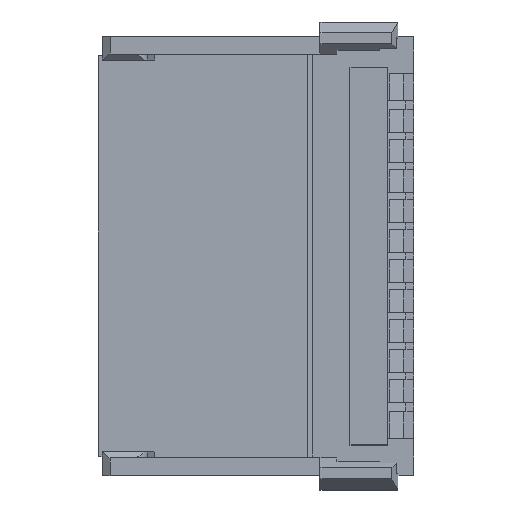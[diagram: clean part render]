
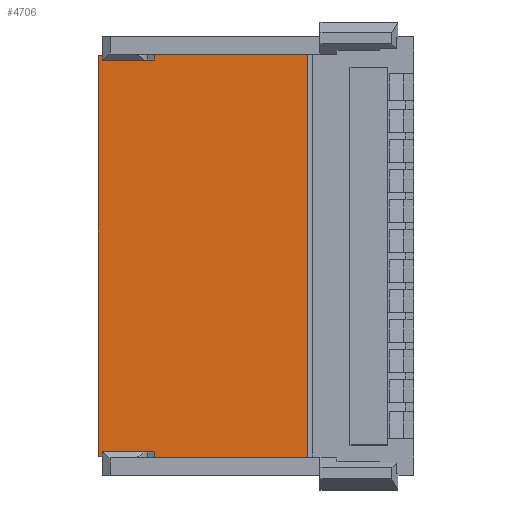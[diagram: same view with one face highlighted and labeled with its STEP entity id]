
A CAD part, top view. The second image highlights one B-rep face of the part: STEP entity #4706.
In plain terms, the highlighted planar face has unit normal (0, 0, 1).
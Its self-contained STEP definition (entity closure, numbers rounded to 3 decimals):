
#4641=AXIS2_PLACEMENT_3D('Plane Axis2P3D',#4638,#4639,#4640) ;
#185=CARTESIAN_POINT('Vertex',(0.2,-10.025,0.)) ;
#188=CARTESIAN_POINT('Line Origine',(0.1,-10.025,0.)) ;
#192=CARTESIAN_POINT('Vertex',(0.,-10.025,0.)) ;
#903=CARTESIAN_POINT('Vertex',(10.5,-10.1,0.)) ;
#906=CARTESIAN_POINT('Line Origine',(6.663,-10.1,0.)) ;
#910=CARTESIAN_POINT('Vertex',(2.826,-10.1,0.)) ;
#935=CARTESIAN_POINT('Line Origine',(2.826,-9.95,0.)) ;
#939=CARTESIAN_POINT('Vertex',(2.826,-9.8,0.)) ;
#973=CARTESIAN_POINT('Line Origine',(2.163,-9.8,0.)) ;
#977=CARTESIAN_POINT('Vertex',(1.5,-9.8,0.)) ;
#1029=CARTESIAN_POINT('Line Origine',(0.85,-9.8,0.)) ;
#1033=CARTESIAN_POINT('Vertex',(0.2,-9.8,0.)) ;
#1081=CARTESIAN_POINT('Line Origine',(0.2,-9.913,0.)) ;
#4543=CARTESIAN_POINT('Line Origine',(10.5,-5.05,0.)) ;
#4547=CARTESIAN_POINT('Vertex',(10.5,10.1,0.)) ;
#4638=CARTESIAN_POINT('Axis2P3D Location',(10.75,-10.025,0.)) ;
#4643=CARTESIAN_POINT('Line Origine',(0.,0.,0.)) ;
#4647=CARTESIAN_POINT('Vertex',(0.,10.025,0.)) ;
#4650=CARTESIAN_POINT('Line Origine',(6.663,10.1,0.)) ;
#4654=CARTESIAN_POINT('Vertex',(2.826,10.1,0.)) ;
#4657=CARTESIAN_POINT('Line Origine',(2.826,9.95,0.)) ;
#4661=CARTESIAN_POINT('Vertex',(2.826,9.8,0.)) ;
#4664=CARTESIAN_POINT('Line Origine',(2.163,9.8,0.)) ;
#4668=CARTESIAN_POINT('Vertex',(1.5,9.8,0.)) ;
#4671=CARTESIAN_POINT('Line Origine',(0.85,9.8,0.)) ;
#4675=CARTESIAN_POINT('Vertex',(0.2,9.8,0.)) ;
#4678=CARTESIAN_POINT('Line Origine',(0.2,9.913,0.)) ;
#4682=CARTESIAN_POINT('Vertex',(0.2,10.025,0.)) ;
#4685=CARTESIAN_POINT('Line Origine',(0.1,10.025,0.)) ;
#189=DIRECTION('Vector Direction',(-1.,0.,0.)) ;
#907=DIRECTION('Vector Direction',(1.,0.,0.)) ;
#936=DIRECTION('Vector Direction',(0.,1.,0.)) ;
#974=DIRECTION('Vector Direction',(-1.,0.,0.)) ;
#1030=DIRECTION('Vector Direction',(1.,0.,0.)) ;
#1082=DIRECTION('Vector Direction',(0.,-1.,0.)) ;
#4544=DIRECTION('Vector Direction',(0.,1.,0.)) ;
#4639=DIRECTION('Axis2P3D Direction',(0.,0.,1.)) ;
#4640=DIRECTION('Axis2P3D XDirection',(-1.,0.,0.)) ;
#4644=DIRECTION('Vector Direction',(0.,-1.,0.)) ;
#4651=DIRECTION('Vector Direction',(1.,0.,0.)) ;
#4658=DIRECTION('Vector Direction',(0.,1.,0.)) ;
#4665=DIRECTION('Vector Direction',(-1.,0.,0.)) ;
#4672=DIRECTION('Vector Direction',(1.,0.,0.)) ;
#4679=DIRECTION('Vector Direction',(0.,-1.,0.)) ;
#4686=DIRECTION('Vector Direction',(-1.,0.,0.)) ;
#190=VECTOR('Line Direction',#189,1.) ;
#908=VECTOR('Line Direction',#907,1.) ;
#937=VECTOR('Line Direction',#936,1.) ;
#975=VECTOR('Line Direction',#974,1.) ;
#1031=VECTOR('Line Direction',#1030,1.) ;
#1083=VECTOR('Line Direction',#1082,1.) ;
#4545=VECTOR('Line Direction',#4544,1.) ;
#4645=VECTOR('Line Direction',#4644,1.) ;
#4652=VECTOR('Line Direction',#4651,1.) ;
#4659=VECTOR('Line Direction',#4658,1.) ;
#4666=VECTOR('Line Direction',#4665,1.) ;
#4673=VECTOR('Line Direction',#4672,1.) ;
#4680=VECTOR('Line Direction',#4679,1.) ;
#4687=VECTOR('Line Direction',#4686,1.) ;
#4691=ORIENTED_EDGE('',*,*,#4649,.T.) ;
#4692=ORIENTED_EDGE('',*,*,#194,.F.) ;
#4693=ORIENTED_EDGE('',*,*,#1085,.T.) ;
#4694=ORIENTED_EDGE('',*,*,#1035,.T.) ;
#4695=ORIENTED_EDGE('',*,*,#979,.T.) ;
#4696=ORIENTED_EDGE('',*,*,#941,.F.) ;
#4697=ORIENTED_EDGE('',*,*,#912,.T.) ;
#4698=ORIENTED_EDGE('',*,*,#4549,.T.) ;
#4699=ORIENTED_EDGE('',*,*,#4656,.F.) ;
#4700=ORIENTED_EDGE('',*,*,#4663,.T.) ;
#4701=ORIENTED_EDGE('',*,*,#4670,.F.) ;
#4702=ORIENTED_EDGE('',*,*,#4677,.F.) ;
#4703=ORIENTED_EDGE('',*,*,#4684,.F.) ;
#4704=ORIENTED_EDGE('',*,*,#4689,.T.) ;
#4706=ADVANCED_FACE('24F-B',(#4705),#4642,.T.) ;
#194=EDGE_CURVE('',#186,#193,#191,.T.) ;
#912=EDGE_CURVE('',#911,#904,#909,.T.) ;
#941=EDGE_CURVE('',#911,#940,#938,.T.) ;
#979=EDGE_CURVE('',#978,#940,#976,.F.) ;
#1035=EDGE_CURVE('',#1034,#978,#1032,.T.) ;
#1085=EDGE_CURVE('',#186,#1034,#1084,.F.) ;
#4549=EDGE_CURVE('',#904,#4548,#4546,.T.) ;
#4649=EDGE_CURVE('',#4648,#193,#4646,.T.) ;
#4656=EDGE_CURVE('',#4655,#4548,#4653,.T.) ;
#4663=EDGE_CURVE('',#4655,#4662,#4660,.F.) ;
#4670=EDGE_CURVE('',#4669,#4662,#4667,.F.) ;
#4677=EDGE_CURVE('',#4676,#4669,#4674,.T.) ;
#4684=EDGE_CURVE('',#4683,#4676,#4681,.T.) ;
#4689=EDGE_CURVE('',#4683,#4648,#4688,.T.) ;
#4690=EDGE_LOOP('',(#4691,#4692,#4693,#4694,#4695,#4696,#4697,#4698,#4699,#4700,#4701,#4702,#4703,#4704)) ;
#4705=FACE_OUTER_BOUND('',#4690,.T.) ;
#191=LINE('Line',#188,#190) ;
#909=LINE('Line',#906,#908) ;
#938=LINE('Line',#935,#937) ;
#976=LINE('Line',#973,#975) ;
#1032=LINE('Line',#1029,#1031) ;
#1084=LINE('Line',#1081,#1083) ;
#4546=LINE('Line',#4543,#4545) ;
#4646=LINE('Line',#4643,#4645) ;
#4653=LINE('Line',#4650,#4652) ;
#4660=LINE('Line',#4657,#4659) ;
#4667=LINE('Line',#4664,#4666) ;
#4674=LINE('Line',#4671,#4673) ;
#4681=LINE('Line',#4678,#4680) ;
#4688=LINE('Line',#4685,#4687) ;
#4642=PLANE('',#4641) ;
#186=VERTEX_POINT('',#185) ;
#193=VERTEX_POINT('',#192) ;
#904=VERTEX_POINT('',#903) ;
#911=VERTEX_POINT('',#910) ;
#940=VERTEX_POINT('',#939) ;
#978=VERTEX_POINT('',#977) ;
#1034=VERTEX_POINT('',#1033) ;
#4548=VERTEX_POINT('',#4547) ;
#4648=VERTEX_POINT('',#4647) ;
#4655=VERTEX_POINT('',#4654) ;
#4662=VERTEX_POINT('',#4661) ;
#4669=VERTEX_POINT('',#4668) ;
#4676=VERTEX_POINT('',#4675) ;
#4683=VERTEX_POINT('',#4682) ;
